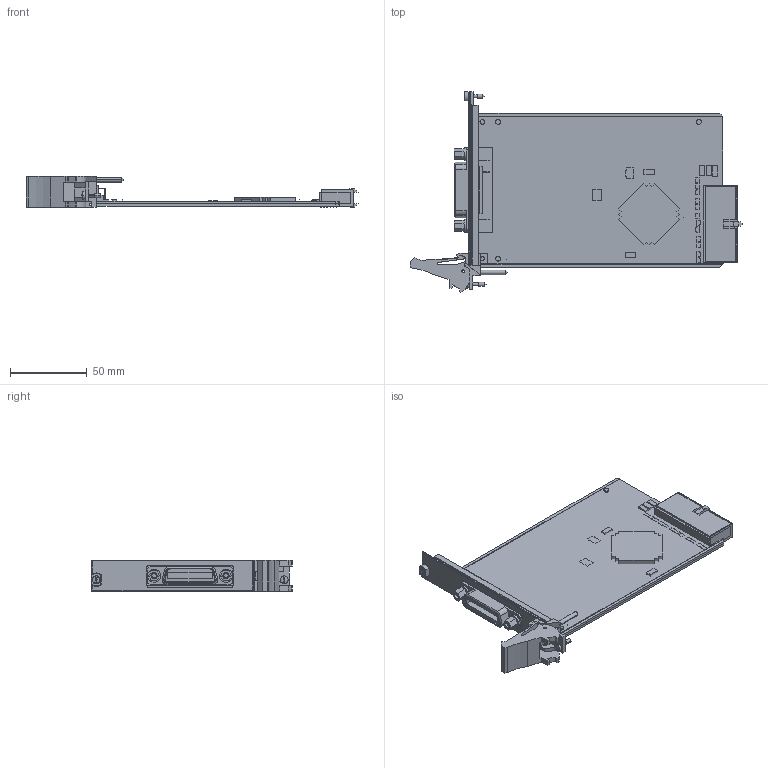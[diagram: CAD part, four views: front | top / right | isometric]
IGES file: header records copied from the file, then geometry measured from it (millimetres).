
Start section:  PTC IGES file: cu_pxi-gpib.igs
Global section: file name: cu_pxi-gpib.igs; native system: Pro/ENGINEER by Parametric Technology Corporation; preprocessor: 2011490; author: gvillanu; organization: Unknown; date: 20130905.102402; units: inch
Bounding box: 216.08 x 130.62 x 20.19 mm (x, y, z)
Surface area: 79419.1 mm2 (no closed solid volume)
Topology: 0 solids, 0 shells, 524 faces, 2853 edges, 2849 vertices
Faces by surface type: bspline 378, revolution 146
